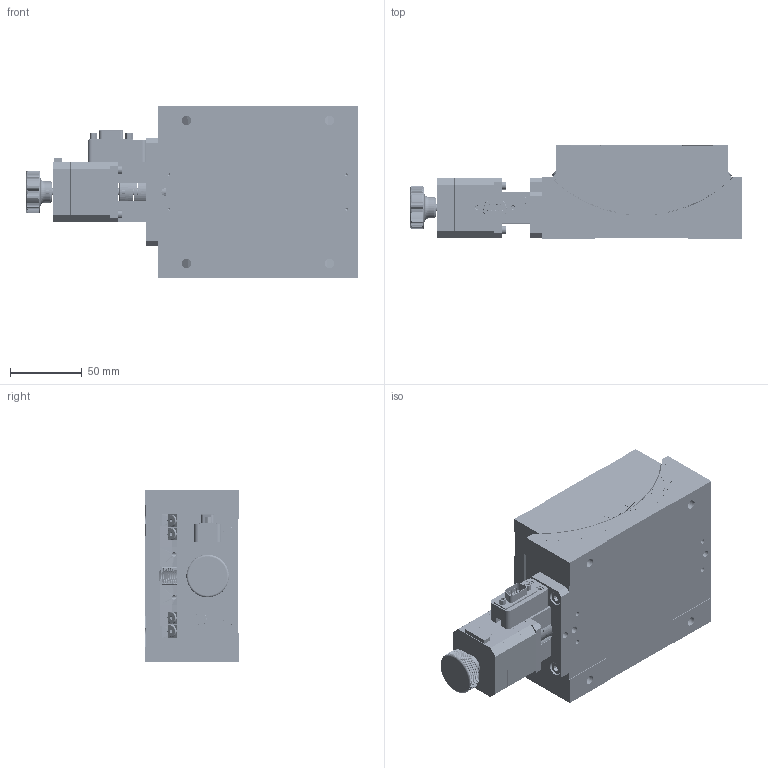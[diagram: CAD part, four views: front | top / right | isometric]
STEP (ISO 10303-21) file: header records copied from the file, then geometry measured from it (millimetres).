
FILE_DESCRIPTION (( 'STEP AP203' ), '1' );
FILE_NAME ('PT-GD145×°Åä.STEP', '2025-08-05T03:26:08', ( '' ), ( '' ), 'SwSTEP 2.0', 'SolidWorks 2023', '' );
FILE_SCHEMA (( 'CONFIG_CONTROL_DESIGN' ));
Length unit declared in the file: millimetre
Products named in the file (29): 电机9针座标准件; PT-GD124-03电机座连接板X; PT-GD145-09钢球固定架; GB／T 70．1-2000[内六角圆柱头螺钉M3×10]; GB／T 70．1-2000[内六角圆柱头螺钉M4×16]; 9针座螺钉; PT-GD124-10背母; MVR3螺钉; 联轴器26-20-5-5; GB／T 70．1-2000[内六角圆柱头螺钉M5×10]; GB／T 276-94[深沟球轴承607-2Z]; PT-GD145装配; PT-GD145-01底座; SST43D2046; GB／T 77-2000[内六角平端紧定螺钉M4×5]; PT-GD145-07导轨左; PT-GD124-12轴承锁母; PT-GD145-05涡杆; PT-GD145-02台面; GB／T 70．1-2000[内六角圆柱头螺钉M4×12]; GB／T 70．1-2000[内六角圆柱头螺钉M3×16]; GB／T 896-86[开口挡圈6]; PT-GD145-08导轨右; PDV-42电机手轮; PT-GD124-13轴承座; 9针座; D3钢球; PT-GD124-11背母2; PT-GD145-06涡轮
Assembly tree (116 placements, depth 2):
  PT-GD145装配
    PT-GD145-01底座
    PT-GD145-02台面
    PT-GD145-06涡轮
    PT-GD145-05涡杆
    PT-GD145-08导轨右  x2
    PT-GD145-07导轨左  x2
    PT-GD124-13轴承座  x2
    GB／T 276-94[深沟球轴承607-2Z]  x2
    PT-GD124-10背母
    PT-GD124-12轴承锁母
    PT-GD124-11背母2
    PT-GD124-03电机座连接板X
    联轴器26-20-5-5
    SST43D2046
    PDV-42电机手轮
    9针座
    MVR3螺钉  x8
    GB／T 70．1-2000[内六角圆柱头螺钉M4×12]  x18
    GB／T 70．1-2000[内六角圆柱头螺钉M3×10]  x14
    GB／T 70．1-2000[内六角圆柱头螺钉M5×10]  x4
    GB／T 70．1-2000[内六角圆柱头螺钉M3×16]  x2
    9针座螺钉  x2
    GB／T 70．1-2000[内六角圆柱头螺钉M4×16]  x10
    GB／T 77-2000[内六角平端紧定螺钉M4×5]  x12
    GB／T 896-86[开口挡圈6]
    PT-GD145-09钢球固定架  x2
    D3钢球  x22
    电机9针座标准件
Bounding box: 232 x 65 x 120 mm (x, y, z)
Volume: 990444.3 mm3; surface area: 250723.8 mm2
Topology: 116 solids, 116 shells, 4962 faces, 13178 edges, 8520 vertices
Faces by surface type: plane 2121, cylinder 1384, bspline 614, cone 327, torus 310, sphere 206
Entity records: 165149 total; most frequent: CARTESIAN_POINT 79537, ORIENTED_EDGE 18528, DIRECTION 14101, EDGE_CURVE 9264, VERTEX_POINT 6117, AXIS2_PLACEMENT_3D 4908, LINE 4285, VECTOR 4285
